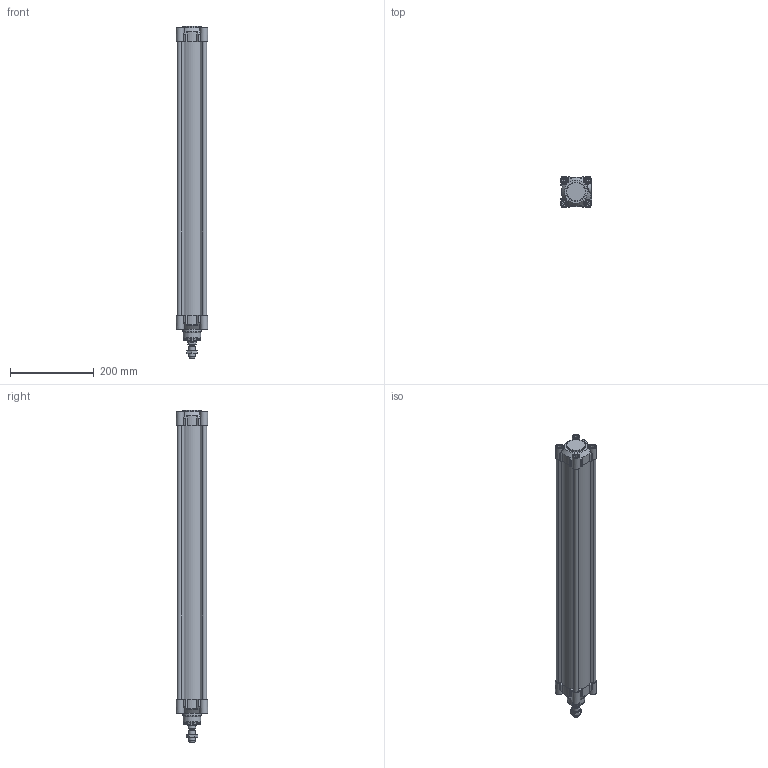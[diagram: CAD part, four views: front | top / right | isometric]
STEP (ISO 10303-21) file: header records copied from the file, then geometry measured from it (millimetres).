
FILE_DESCRIPTION(/* description */ ('Unknown'),/* implementation_level */ '2;1');
FILE_NAME(/* name */ 'HIF 63_600',/* time_stamp */ '2024-08-12T12:41:21+02:00',/* author */ ('Unknown'),/* organization */ ('Unknown'),/* preprocessor_version */ 'ST-DEVELOPER v16.7',/* originating_system */ 'Solid Edge',/* authorisation */ 'Unknown');
FILE_SCHEMA (('AUTOMOTIVE_DESIGN {1 0 10303 214 3 1 1}'));
Length unit declared in the file: millimetre
Products named in the file (6): HIF 63_600; Kit_2; Kit_1; Profilrohr 63_600; Kolbenstange 63_600; Mutter
Assembly tree (5 placements, depth 2):
  HIF 63_600
    Kit_2
    Kit_1
    Profilrohr 63_600
    Kolbenstange 63_600
    Mutter
Bounding box: 75 x 75 x 794 mm (x, y, z)
Volume: 1285619.3 mm3; surface area: 595881.7 mm2
Topology: 5 solids, 20 shells, 1223 faces, 3024 edges, 1893 vertices
Faces by surface type: cylinder 514, plane 369, cone 110, torus 94, sphere 74, bspline 62
Full cylindrical faces by diameter (mm): 3 x2, 3.4 x2, 6.647 x16, 8 x8, 8.3 x8, 9.9 x2, 10 x4, 12 x2, 13 x8, 13.3 x8, 13.5 x1, 14.376 x1, 14.94 x2, 14.95 x2, 16 x1, 19.5 x1, 20 x2, 20.5 x1, 20.8 x1, 20.847 x1, 24 x1, 30 x2, 42 x1, 45 x2, 63 x2
Entity records: 47058 total; most frequent: CARTESIAN_POINT 12490, ORIENTED_EDGE 5844, DIRECTION 5229, EDGE_CURVE 2922, AXIS2_PLACEMENT_3D 2134, VERTEX_POINT 1876, FACE_BOUND 1382, EDGE_LOOP 1374
